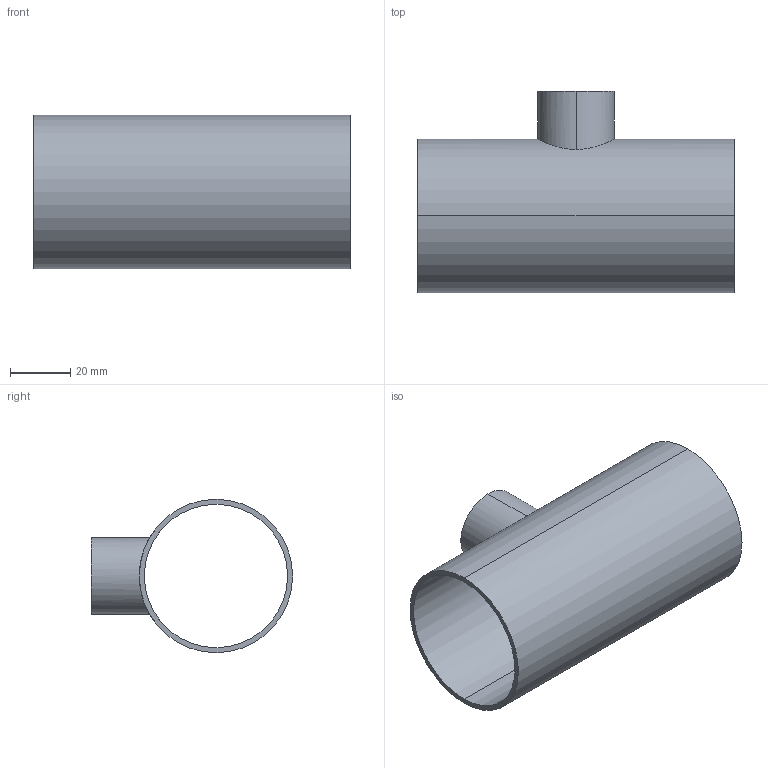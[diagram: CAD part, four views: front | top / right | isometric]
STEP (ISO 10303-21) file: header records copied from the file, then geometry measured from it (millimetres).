
FILE_DESCRIPTION (( 'STEP AP203' ), '1' );
FILE_NAME ('E7RWWW2.0X1.0.STEP', '2018-04-30T18:51:39', ( 'vneprd' ), ( 'Microsoft' ), 'SwSTEP 2.0', 'SolidWorks 2014', '' );
FILE_SCHEMA (( 'CONFIG_CONTROL_DESIGN' ));
Length unit declared in the file: inch
Products named in the file (1): E7RWWW2.0X1.0
Bounding box: 104.78 x 66.67 x 50.8 mm (x, y, z)
Volume: 28194.2 mm3; surface area: 34779.8 mm2
Topology: 1 solids, 1 shells, 11 faces, 24 edges, 16 vertices
Faces by surface type: cylinder 8, plane 3
Entity records: 590 total; most frequent: CARTESIAN_POINT 253, DIRECTION 56, ORIENTED_EDGE 48, AXIS2_PLACEMENT_3D 24, EDGE_CURVE 24, EDGE_LOOP 16, VERTEX_POINT 16, CIRCLE 12
